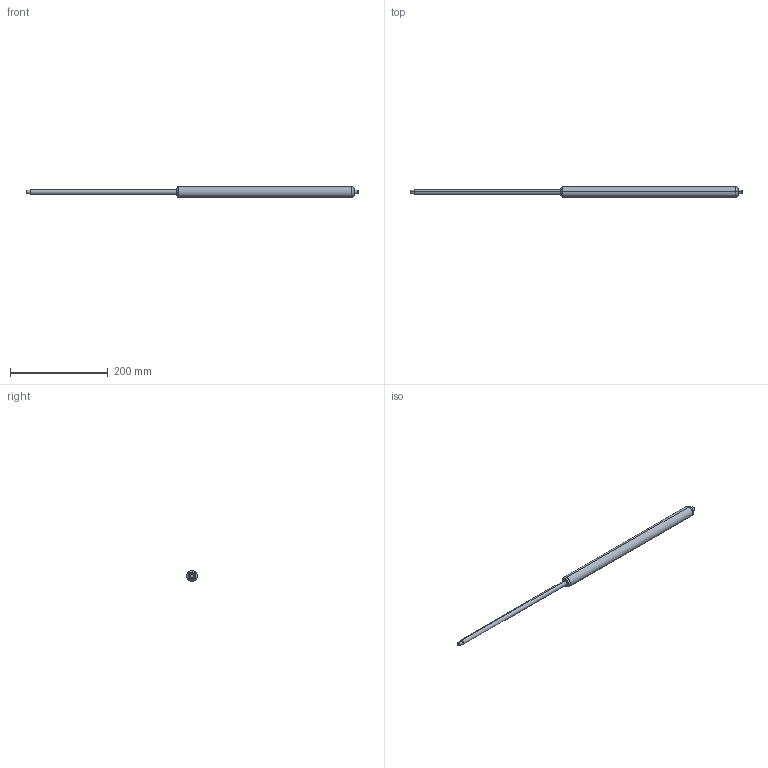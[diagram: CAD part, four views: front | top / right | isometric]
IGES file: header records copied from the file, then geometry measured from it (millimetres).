
Start section: SolidWorks IGES file using analytic representation for surfaces
Bounding box: 681 x 22 x 22 mm (x, y, z)
Surface area: 35506.5 mm2 (no closed solid volume)
Topology: 0 solids, 0 shells, 25 faces, 336 edges, 336 vertices
Faces by surface type: revolution 16, bspline 9
